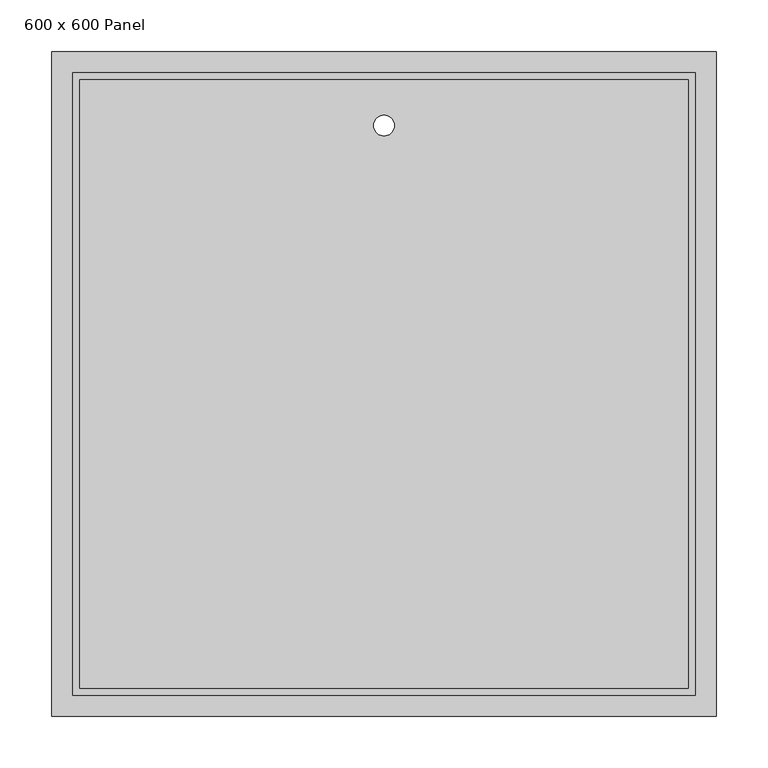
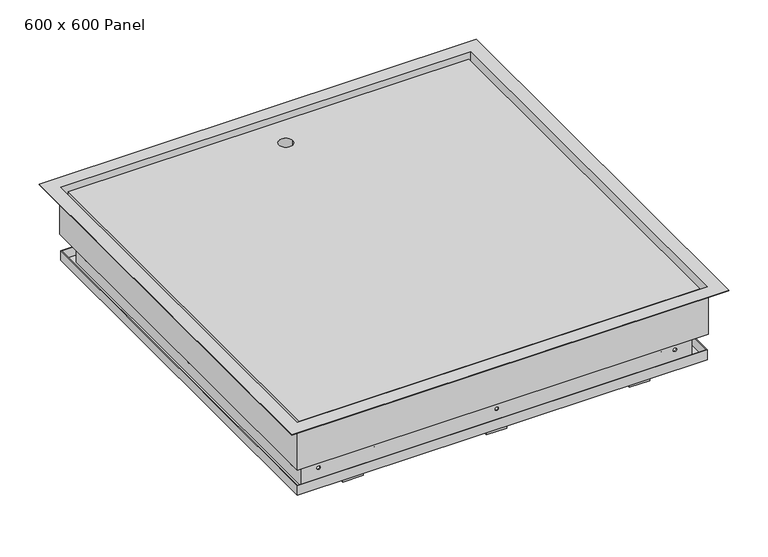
"""IFC4 building model written with IfcOpenShell, lengths in millimetres: proxy geometry, 600 x 600 Fyreshield : 600 x 600 Panel."""

from ifc_helpers import new_model, si_unit, point, frame, frame_2d, origin, place, context, project, spatial, polyline, circle_curve, trimmed, segment, composite_curve, outline, extrude, source, transform, mapped, element, save
from ifc_brep_helpers import plane_surface, cylinder_surface, revolved_surface, advanced_brep


def proxy_600_x_600_panel_ee4ed7a9(model_context):
    return source(origin(), model_context, "Body", "SolidModel", [
        extrude(outline(composite_curve([segment(trimmed(circle_curve(frame_2d((-265.0, -79.3136739)), 5.0), [point((-270.0, -79.3136739))], [point((-265.0, -74.3136739))], False, "CARTESIAN"), True, "CONTINUOUS"), segment(polyline([(-265.0, -74.3136739), (-255.6315148, -73.0), (-234.3304501, -73.0), (-234.3304501, -77.4449364)]), True, "CONTINUOUS"), segment(trimmed(circle_curve(frame_2d((-239.3304501, -77.4449364)), 5.0), [point((-234.3304501, -77.4449364))], [point((-239.3304501, -82.4449364))], False, "CARTESIAN"), True, "CONTINUOUS"), segment(polyline([(-239.3304501, -82.4449364), (-257.5, -82.4449364)]), True, "CONTINUOUS"), segment(trimmed(circle_curve(frame_2d((-257.5, -84.9449364)), 2.5), [point((-257.5, -82.4449364))], [point((-260.0, -84.9449364))], True, "CARTESIAN"), True, "CONTINUOUS"), segment(polyline([(-260.0, -84.9449364), (-260.0, -86.8136739), (-270.0, -86.8136739), (-270.0, -79.3136739)]), True, "CONTINUOUS")], self_intersect=False)), frame((200.0, 0.0, 0.0), z_axis=(1.0, 0.0, 0.0), x_axis=(0.0, 1.0, 0.0)), (0.0, 0.0, 1.0), 20.0),
        extrude(outline(composite_curve([segment(trimmed(circle_curve(frame_2d((-265.0, -79.3136739)), 5.0), [point((-270.0, -79.3136739))], [point((-265.0, -74.3136739))], False, "CARTESIAN"), True, "CONTINUOUS"), segment(polyline([(-265.0, -74.3136739), (-255.6315148, -73.0), (-234.3304501, -73.0), (-234.3304501, -77.4449364)]), True, "CONTINUOUS"), segment(trimmed(circle_curve(frame_2d((-239.3304501, -77.4449364)), 5.0), [point((-234.3304501, -77.4449364))], [point((-239.3304501, -82.4449364))], False, "CARTESIAN"), True, "CONTINUOUS"), segment(polyline([(-239.3304501, -82.4449364), (-257.5, -82.4449364)]), True, "CONTINUOUS"), segment(trimmed(circle_curve(frame_2d((-257.5, -84.9449364)), 2.5), [point((-257.5, -82.4449364))], [point((-260.0, -84.9449364))], True, "CARTESIAN"), True, "CONTINUOUS"), segment(polyline([(-260.0, -84.9449364), (-260.0, -86.8136739), (-270.0, -86.8136739), (-270.0, -79.3136739)]), True, "CONTINUOUS")], self_intersect=False)), frame((-10.0, 0.0, 0.0), z_axis=(1.0, 0.0, 0.0), x_axis=(0.0, 1.0, 0.0)), (0.0, 0.0, 1.0), 20.0),
        extrude(outline(polyline([(293.0, 293.0), (293.0, -293.0), (-293.0, -293.0), (-293.0, 293.0), (293.0, 293.0)]), holes=[composite_curve([segment(trimmed(circle_curve(frame_2d((0.0, 249.0)), 10.0), [point((-10.0, 249.0))], [point((10.0, 249.0))], True, "CARTESIAN"), True, "CONTINUOUS"), segment(trimmed(circle_curve(frame_2d((0.0, 249.0)), 10.0), [point((10.0, 249.0))], [point((-10.0, 249.0))], True, "CARTESIAN"), True, "CONTINUOUS")], self_intersect=False)]), frame((0.0, 0.0, -71.0), z_axis=(0.0, 0.0, 1.0), x_axis=(1.0, 0.0, 0.0)), (0.0, 0.0, 1.0), 67.0),
        advanced_brep(
        [(-220.0, -270.0, -79.3136739), (-220.0, -265.0, -74.3136739), (-220.0, -248.5, -72.0), (-220.0, -234.3304501, -72.0), (-220.0, -234.3304501, -77.4449364), (-220.0, -239.3304501, -82.4449364), (-220.0, -257.5, -82.4449364), (-220.0, -260.0, -84.9449364), (-220.0, -260.0, -127.128369), (-220.0, -280.0, -127.128369), (-220.0, -280.0, -86.8136739), (-220.0, -270.0, -86.8136739), (-200.0, -270.0, -79.3136739), (-200.0, -270.0, -86.8136739), (-200.0, -280.0, -86.8136739), (-200.0, -280.0, -127.128369), (-200.0, -260.0, -127.128369), (-200.0, -260.0, -84.9449364), (-200.0, -257.5, -82.4449364), (-200.0, -239.3304501, -82.4449364), (-200.0, -234.3304501, -77.4449364), (-200.0, -234.3304501, -72.0), (-200.0, -248.5, -72.0), (-200.0, -265.0, -74.3136739), (-240.020868, -280.0, -112.0), (-230.0, -280.0, -112.0), (-230.0, -285.0, -112.0), (-240.020868, -285.0, -112.0), (-242.520868, -280.0, -109.5), (-242.520868, -285.0, -109.5), (-242.520868, -280.0, -90.3136739), (-242.520868, -285.0, -90.3136739), (-240.020868, -280.0, -87.8136739), (-240.020868, -285.0, -87.8136739), (-227.5, -280.0, -112.0), (-225.0, -280.0, -114.5), (-225.0, -285.0, -114.5), (-227.5, -285.0, -112.0), (-192.5, -280.0, -112.0), (-190.0, -280.0, -112.0), (-190.0, -285.0, -112.0), (-192.5, -285.0, -112.0), (-195.0, -280.0, -114.5), (-195.0, -285.0, -114.5), (-177.479132, -280.0, -90.3136739), (-179.979132, -280.0, -87.8136739), (-179.979132, -285.0, -87.8136739), (-177.479132, -285.0, -90.3136739), (-177.479132, -280.0, -109.5), (-177.479132, -285.0, -109.5), (-179.979132, -280.0, -112.0), (-179.979132, -285.0, -112.0), (-225.0, -280.0, -87.8136739), (-225.0, -280.0, -86.8136739), (-225.0, -280.0, -127.128369), (-195.0, -280.0, -127.128369), (-195.0, -280.0, -86.8136739), (-195.0, -280.0, -87.8136739), (-225.0, -285.0, -127.128369), (-195.0, -285.0, -127.128369), (-195.0, -285.0, -87.8136739), (-195.0, -285.0, -86.8136739), (-225.0, -285.0, -86.8136739), (-225.0, -285.0, -87.8136739)],
        [
            (0, 1, circle_curve(frame((-220.0, -265.0, -79.3136739), z_axis=(-1.0, 0.0, 0.0), x_axis=(0.0, 1.0, 0.0)), 5.0)),
            (1, 2),
            (2, 3),
            (3, 4),
            (4, 5, circle_curve(frame((-220.0, -239.3304501, -77.4449364), z_axis=(-1.0, 0.0, 0.0), x_axis=(0.0, 1.0, 0.0)), 5.0)),
            (5, 6),
            (6, 7, circle_curve(frame((-220.0, -257.5, -84.9449364), z_axis=(1.0, 0.0, 0.0), x_axis=(0.0, 1.0, 0.0)), 2.5)),
            (7, 8),
            (8, 9),
            (9, 10),
            (10, 11),
            (11, 0),
            (12, 13),
            (13, 14),
            (14, 15),
            (15, 16),
            (16, 17),
            (17, 18, circle_curve(frame((-200.0, -257.5, -84.9449364), z_axis=(-1.0, 0.0, 0.0), x_axis=(0.0, 1.0, 0.0)), 2.5)),
            (18, 19),
            (19, 20, circle_curve(frame((-200.0, -239.3304501, -77.4449364), z_axis=(1.0, 0.0, 0.0), x_axis=(0.0, 1.0, 0.0)), 5.0)),
            (20, 21),
            (21, 22),
            (22, 23),
            (23, 12, circle_curve(frame((-200.0, -265.0, -79.3136739), z_axis=(1.0, 0.0, 0.0), x_axis=(0.0, 1.0, 0.0)), 5.0)),
            (11, 13),
            (12, 0),
            (7, 17),
            (16, 8),
            (6, 18),
            (5, 19),
            (4, 20),
            (3, 21),
            (2, 22),
            (1, 23),
            (24, 25),
            (25, 26),
            (26, 27),
            (27, 24),
            (28, 24, circle_curve(frame((-240.020868, -280.0, -109.5), z_axis=(0.0, -1.0, 0.0), x_axis=(-1.0, 0.0, 0.0)), 2.5)),
            (27, 29, circle_curve(frame((-240.020868, -285.0, -109.5), z_axis=(0.0, 1.0, 0.0), x_axis=(-1.0, 0.0, 0.0)), 2.5)),
            (29, 28),
            (30, 28),
            (29, 31),
            (31, 30),
            (32, 30, circle_curve(frame((-240.020868, -280.0, -90.3136739), z_axis=(0.0, -1.0, 0.0), x_axis=(-1.0, 0.0, 0.0)), 2.5)),
            (31, 33, circle_curve(frame((-240.020868, -285.0, -90.3136739), z_axis=(0.0, 1.0, 0.0), x_axis=(-1.0, 0.0, 0.0)), 2.5)),
            (33, 32),
            (34, 35, circle_curve(frame((-227.5, -280.0, -114.5), z_axis=(0.0, 1.0, 0.0), x_axis=(-1.0, 0.0, 0.0)), 2.5)),
            (35, 36),
            (36, 37, circle_curve(frame((-227.5, -285.0, -114.5), z_axis=(0.0, -1.0, 0.0), x_axis=(-1.0, 0.0, 0.0)), 2.5)),
            (37, 34),
            (25, 34),
            (37, 26),
            (38, 39),
            (39, 40),
            (40, 41),
            (41, 38),
            (42, 38, circle_curve(frame((-192.5, -280.0, -114.5), z_axis=(0.0, 1.0, 0.0), x_axis=(-1.0, 0.0, 0.0)), 2.5)),
            (41, 43, circle_curve(frame((-192.5, -285.0, -114.5), z_axis=(0.0, -1.0, 0.0), x_axis=(-1.0, 0.0, 0.0)), 2.5)),
            (43, 42),
            (44, 45, circle_curve(frame((-179.979132, -280.0, -90.3136739), z_axis=(0.0, -1.0, 0.0), x_axis=(-1.0, 0.0, 0.0)), 2.5)),
            (45, 46),
            (46, 47, circle_curve(frame((-179.979132, -285.0, -90.3136739), z_axis=(0.0, 1.0, 0.0), x_axis=(-1.0, 0.0, 0.0)), 2.5)),
            (47, 44),
            (48, 44),
            (47, 49),
            (49, 48),
            (50, 48, circle_curve(frame((-179.979132, -280.0, -109.5), z_axis=(0.0, -1.0, 0.0), x_axis=(-1.0, 0.0, 0.0)), 2.5)),
            (49, 51, circle_curve(frame((-179.979132, -285.0, -109.5), z_axis=(0.0, 1.0, 0.0), x_axis=(-1.0, 0.0, 0.0)), 2.5)),
            (51, 50),
            (39, 50),
            (51, 40),
            (32, 52),
            (52, 53),
            (53, 10),
            (9, 54),
            (54, 35),
            (42, 55),
            (55, 15),
            (14, 56),
            (56, 57),
            (57, 45),
            (36, 58),
            (58, 59),
            (59, 43),
            (46, 60),
            (60, 61),
            (61, 62),
            (62, 63),
            (63, 33),
            (63, 52),
            (57, 60),
            (53, 62),
            (61, 56),
            (55, 59),
            (58, 54),
        ],
        [
            plane_surface(frame((-220.0, -270.0, -86.8136739), z_axis=(-1.0, 0.0, 0.0), x_axis=(0.0, 0.0, 1.0))),
            plane_surface(frame((-200.0, -270.0, -86.8136739), z_axis=(1.0, 0.0, 0.0), x_axis=(0.0, 0.0, -1.0))),
            plane_surface(frame((-200.0, -270.0, -79.3136739), z_axis=(0.0, -1.0, 0.0), x_axis=(-1.0, 0.0, 0.0))),
            plane_surface(frame((-200.0, -260.0, -86.8136739), z_axis=(0.0, 1.0, 0.0), x_axis=(-1.0, 0.0, 0.0))),
            revolved_surface(polyline([(-220.0, -255.0, -84.9449364), (-200.0, -255.0, -84.9449364)]), (-220.0, -257.5, -84.9449364), (-1.0, 0.0, 0.0)),
            plane_surface(frame((-200.0, -257.5, -82.4449364), z_axis=(0.0, 0.0, -1.0), x_axis=(-1.0, 0.0, 0.0))),
            cylinder_surface(frame((-220.0, -239.3304501, -77.4449364), z_axis=(1.0, 0.0, 0.0), x_axis=(0.0, 1.0, 0.0)), 5.0),
            plane_surface(frame((-200.0, -234.3304501, -77.4449364), z_axis=(0.0, 1.0, 0.0), x_axis=(-1.0, 0.0, 0.0))),
            plane_surface(frame((-200.0, -234.3304501, -72.0), z_axis=(0.0, 0.0, 1.0), x_axis=(-1.0, 0.0, 0.0))),
            plane_surface(frame((-200.0, -248.5, -72.0), z_axis=(0.0, -0.1388641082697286, 0.9903114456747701), x_axis=(-1.0, 0.0, 0.0))),
            cylinder_surface(frame((-220.0, -265.0, -79.3136739), z_axis=(1.0, 0.0, 0.0), x_axis=(0.0, 1.0, 0.0)), 5.0),
            plane_surface(frame((-230.0, -280.0, -112.0), z_axis=(0.0, 0.0, -1.0), x_axis=(0.0, -1.0, 0.0))),
            cylinder_surface(frame((-240.020868, -285.0, -109.5), z_axis=(0.0, 1.0, 0.0), x_axis=(-1.0, 0.0, 0.0)), 2.5),
            plane_surface(frame((-242.520868, -280.0, -109.5), z_axis=(-1.0, 0.0, 0.0), x_axis=(0.0, -1.0, 0.0))),
            cylinder_surface(frame((-240.020868, -285.0, -90.3136739), z_axis=(0.0, 1.0, 0.0), x_axis=(-1.0, 0.0, 0.0)), 2.5),
            revolved_surface(polyline([(-230.0, -285.0, -114.5), (-230.0, -280.0, -114.5)]), (-227.5, -285.0, -114.5), (0.0, -1.0, 0.0)),
            plane_surface(frame((-227.5, -280.0, -112.0), z_axis=(0.0, 0.0, -1.0), x_axis=(0.0, -1.0, 0.0))),
            plane_surface(frame((-190.0, -280.0, -112.0), z_axis=(0.0, 0.0, -1.0), x_axis=(0.0, -1.0, 0.0))),
            revolved_surface(polyline([(-195.0, -285.0, -114.5), (-195.0, -280.0, -114.5)]), (-192.5, -285.0, -114.5), (0.0, -1.0, 0.0)),
            cylinder_surface(frame((-179.979132, -285.0, -90.3136739), z_axis=(0.0, 1.0, 0.0), x_axis=(-1.0, 0.0, 0.0)), 2.5),
            plane_surface(frame((-177.479132, -280.0, -90.3136739), z_axis=(1.0, 0.0, 0.0), x_axis=(0.0, -1.0, 0.0))),
            cylinder_surface(frame((-179.979132, -285.0, -109.5), z_axis=(0.0, 1.0, 0.0), x_axis=(-1.0, 0.0, 0.0)), 2.5),
            plane_surface(frame((-179.979132, -280.0, -112.0), z_axis=(0.0, 0.0, -1.0), x_axis=(0.0, -1.0, 0.0))),
            plane_surface(frame((190.0, -280.0, -112.0), z_axis=(0.0, 1.0, 0.0), x_axis=(-1.0, 0.0, 0.0))),
            plane_surface(frame((190.0, -285.0, -112.0), z_axis=(0.0, -1.0, 0.0), x_axis=(1.0, 0.0, 0.0))),
            plane_surface(frame((-240.020868, -280.0, -87.8136739), z_axis=(0.0, 0.0, 1.0), x_axis=(0.0, -1.0, 0.0))),
            plane_surface(frame((-195.0, -280.0, -87.8136739), z_axis=(0.0, 0.0, 1.0), x_axis=(0.0, -1.0, 0.0))),
            plane_surface(frame((-225.0, -285.0, -86.8136739), z_axis=(0.0, 0.0, 1.0), x_axis=(0.0, -1.0, 0.0))),
            plane_surface(frame((-225.0, -285.0, -127.128369), z_axis=(0.0, 0.0, -1.0), x_axis=(0.0, 1.0, 0.0))),
            plane_surface(frame((-225.0, -280.0, -86.8136739), z_axis=(-1.0, 0.0, 0.0), x_axis=(0.0, 0.0, -1.0))),
            plane_surface(frame((-195.0, -285.0, -86.8136739), z_axis=(1.0, 0.0, 0.0), x_axis=(0.0, 0.0, -1.0))),
        ],
        [
            (0, [[1, 2, 3, 4, 5, 6, 7, 8, 9, 10, 11, 12]]),
            (1, [[13, 14, 15, 16, 17, 18, 19, 20, 21, 22, 23, 24]]),
            (2, [[-12, 25, -13, 26]]),
            (3, [[-8, 27, -17, 28]]),
            (4, [[-7, 29, -18, -27]]),
            (5, [[-6, 30, -19, -29]]),
            (6, [[-5, 31, -20, -30]]),
            (7, [[-4, 32, -21, -31]]),
            (8, [[-3, 33, -22, -32]]),
            (9, [[-2, 34, -23, -33]]),
            (10, [[-1, -26, -24, -34]]),
            (11, [[35, 36, 37, 38]]),
            (12, [[39, -38, 40, 41]]),
            (13, [[42, -41, 43, 44]]),
            (14, [[45, -44, 46, 47]]),
            (15, [[48, 49, 50, 51]]),
            (16, [[52, -51, 53, -36]]),
            (17, [[54, 55, 56, 57]]),
            (18, [[58, -57, 59, 60]]),
            (19, [[61, 62, 63, 64]]),
            (20, [[65, -64, 66, 67]]),
            (21, [[68, -67, 69, 70]]),
            (22, [[71, -70, 72, -55]]),
            (23, [[-35, -39, -42, -45, 73, 74, 75, -10, 76, 77, -48, -52]]),
            (23, [[-54, -58, 78, 79, -15, 80, 81, 82, -61, -65, -68, -71]]),
            (24, [[-53, -50, 83, 84, 85, -59, -56, -72, -69, -66, -63, 86, 87, 88, 89, 90, -46, -43, -40, -37]]),
            (25, [[-73, -47, -90, 91]]),
            (26, [[-82, 92, -86, -62]]),
            (27, [[93, -88, 94, -80, -14, -25, -11, -75]]),
            (28, [[-76, -9, -28, -16, -79, 95, -84, 96]]),
            (29, [[-93, -74, -91, -89]]),
            (29, [[-96, -83, -49, -77]]),
            (30, [[-94, -87, -92, -81]]),
            (30, [[-95, -78, -60, -85]]),
        ],
    ),
        advanced_brep(
        [(179.979132, -280.0, -112.0), (190.0, -280.0, -112.0), (190.0, -285.0, -112.0), (179.979132, -285.0, -112.0), (177.479132, -280.0, -109.5), (177.479132, -285.0, -109.5), (177.479132, -280.0, -90.3136739), (177.479132, -285.0, -90.3136739), (179.979132, -280.0, -87.8136739), (179.979132, -285.0, -87.8136739), (192.5, -280.0, -112.0), (195.0, -280.0, -114.5), (195.0, -285.0, -114.5), (192.5, -285.0, -112.0), (227.5, -280.0, -112.0), (230.0, -280.0, -112.0), (230.0, -285.0, -112.0), (227.5, -285.0, -112.0), (225.0, -280.0, -114.5), (225.0, -285.0, -114.5), (242.520868, -280.0, -90.3136739), (240.020868, -280.0, -87.8136739), (240.020868, -285.0, -87.8136739), (242.520868, -285.0, -90.3136739), (242.520868, -280.0, -109.5), (242.520868, -285.0, -109.5), (240.020868, -280.0, -112.0), (240.020868, -285.0, -112.0), (195.0, -280.0, -87.8136739), (195.0, -280.0, -86.8136739), (200.0, -280.0, -86.8136739), (200.0, -280.0, -127.128369), (195.0, -280.0, -127.128369), (225.0, -280.0, -127.128369), (220.0, -280.0, -127.128369), (220.0, -280.0, -86.8136739), (225.0, -280.0, -86.8136739), (225.0, -280.0, -87.8136739), (195.0, -285.0, -127.128369), (225.0, -285.0, -127.128369), (225.0, -285.0, -87.8136739), (225.0, -285.0, -86.8136739), (195.0, -285.0, -86.8136739), (195.0, -285.0, -87.8136739), (220.0, -260.0, -86.8136739), (200.0, -260.0, -86.8136739), (200.0, -260.0, -127.128369), (220.0, -260.0, -127.128369)],
        [
            (0, 1),
            (1, 2),
            (2, 3),
            (3, 0),
            (4, 0, circle_curve(frame((179.979132, -280.0, -109.5), z_axis=(0.0, -1.0, 0.0), x_axis=(-1.0, 0.0, 0.0)), 2.5)),
            (3, 5, circle_curve(frame((179.979132, -285.0, -109.5), z_axis=(0.0, 1.0, 0.0), x_axis=(-1.0, 0.0, 0.0)), 2.5)),
            (5, 4),
            (6, 4),
            (5, 7),
            (7, 6),
            (8, 6, circle_curve(frame((179.979132, -280.0, -90.3136739), z_axis=(0.0, -1.0, 0.0), x_axis=(-1.0, 0.0, 0.0)), 2.5)),
            (7, 9, circle_curve(frame((179.979132, -285.0, -90.3136739), z_axis=(0.0, 1.0, 0.0), x_axis=(-1.0, 0.0, 0.0)), 2.5)),
            (9, 8),
            (10, 11, circle_curve(frame((192.5, -280.0, -114.5), z_axis=(0.0, 1.0, 0.0), x_axis=(-1.0, 0.0, 0.0)), 2.5)),
            (11, 12),
            (12, 13, circle_curve(frame((192.5, -285.0, -114.5), z_axis=(0.0, -1.0, 0.0), x_axis=(-1.0, 0.0, 0.0)), 2.5)),
            (13, 10),
            (1, 10),
            (13, 2),
            (14, 15),
            (15, 16),
            (16, 17),
            (17, 14),
            (18, 14, circle_curve(frame((227.5, -280.0, -114.5), z_axis=(0.0, 1.0, 0.0), x_axis=(-1.0, 0.0, 0.0)), 2.5)),
            (17, 19, circle_curve(frame((227.5, -285.0, -114.5), z_axis=(0.0, -1.0, 0.0), x_axis=(-1.0, 0.0, 0.0)), 2.5)),
            (19, 18),
            (20, 21, circle_curve(frame((240.020868, -280.0, -90.3136739), z_axis=(0.0, -1.0, 0.0), x_axis=(-1.0, 0.0, 0.0)), 2.5)),
            (21, 22),
            (22, 23, circle_curve(frame((240.020868, -285.0, -90.3136739), z_axis=(0.0, 1.0, 0.0), x_axis=(-1.0, 0.0, 0.0)), 2.5)),
            (23, 20),
            (24, 20),
            (23, 25),
            (25, 24),
            (26, 24, circle_curve(frame((240.020868, -280.0, -109.5), z_axis=(0.0, -1.0, 0.0), x_axis=(-1.0, 0.0, 0.0)), 2.5)),
            (25, 27, circle_curve(frame((240.020868, -285.0, -109.5), z_axis=(0.0, 1.0, 0.0), x_axis=(-1.0, 0.0, 0.0)), 2.5)),
            (27, 26),
            (15, 26),
            (27, 16),
            (8, 28),
            (28, 29),
            (29, 30),
            (30, 31),
            (31, 32),
            (32, 11),
            (18, 33),
            (33, 34),
            (34, 35),
            (35, 36),
            (36, 37),
            (37, 21),
            (12, 38),
            (38, 39),
            (39, 19),
            (22, 40),
            (40, 41),
            (41, 42),
            (42, 43),
            (43, 9),
            (43, 28),
            (37, 40),
            (29, 42),
            (41, 36),
            (35, 44),
            (44, 45),
            (45, 30),
            (31, 46),
            (46, 47),
            (47, 34),
            (33, 39),
            (38, 32),
            (47, 44),
            (46, 45),
        ],
        [
            plane_surface(frame((190.0, -280.0, -112.0), z_axis=(0.0, 0.0, -1.0), x_axis=(0.0, -1.0, 0.0))),
            cylinder_surface(frame((179.979132, -285.0, -109.5), z_axis=(0.0, 1.0, 0.0), x_axis=(-1.0, 0.0, 0.0)), 2.5),
            plane_surface(frame((177.479132, -280.0, -109.5), z_axis=(-1.0, 0.0, 0.0), x_axis=(0.0, -1.0, 0.0))),
            cylinder_surface(frame((179.979132, -285.0, -90.3136739), z_axis=(0.0, 1.0, 0.0), x_axis=(-1.0, 0.0, 0.0)), 2.5),
            revolved_surface(polyline([(190.0, -285.0, -114.5), (190.0, -280.0, -114.5)]), (192.5, -285.0, -114.5), (0.0, -1.0, 0.0)),
            plane_surface(frame((192.5, -280.0, -112.0), z_axis=(0.0, 0.0, -1.0), x_axis=(0.0, -1.0, 0.0))),
            plane_surface(frame((230.0, -280.0, -112.0), z_axis=(0.0, 0.0, -1.0), x_axis=(0.0, -1.0, 0.0))),
            revolved_surface(polyline([(225.0, -285.0, -114.5), (225.0, -280.0, -114.5)]), (227.5, -285.0, -114.5), (0.0, -1.0, 0.0)),
            cylinder_surface(frame((240.020868, -285.0, -90.3136739), z_axis=(0.0, 1.0, 0.0), x_axis=(-1.0, 0.0, 0.0)), 2.5),
            plane_surface(frame((242.520868, -280.0, -90.3136739), z_axis=(1.0, 0.0, 0.0), x_axis=(0.0, -1.0, 0.0))),
            cylinder_surface(frame((240.020868, -285.0, -109.5), z_axis=(0.0, 1.0, 0.0), x_axis=(-1.0, 0.0, 0.0)), 2.5),
            plane_surface(frame((240.020868, -280.0, -112.0), z_axis=(0.0, 0.0, -1.0), x_axis=(0.0, -1.0, 0.0))),
            plane_surface(frame((190.0, -280.0, -112.0), z_axis=(0.0, 1.0, 0.0), x_axis=(-1.0, 0.0, 0.0))),
            plane_surface(frame((190.0, -285.0, -112.0), z_axis=(0.0, -1.0, 0.0), x_axis=(1.0, 0.0, 0.0))),
            plane_surface(frame((179.979132, -280.0, -87.8136739), z_axis=(0.0, 0.0, 1.0), x_axis=(0.0, -1.0, 0.0))),
            plane_surface(frame((225.0, -280.0, -87.8136739), z_axis=(0.0, 0.0, 1.0), x_axis=(0.0, -1.0, 0.0))),
            plane_surface(frame((-225.0, -285.0, -86.8136739), z_axis=(0.0, 0.0, 1.0), x_axis=(0.0, -1.0, 0.0))),
            plane_surface(frame((-225.0, -285.0, -127.128369), z_axis=(0.0, 0.0, -1.0), x_axis=(0.0, 1.0, 0.0))),
            plane_surface(frame((195.0, -280.0, -86.8136739), z_axis=(-1.0, 0.0, 0.0), x_axis=(0.0, 0.0, -1.0))),
            plane_surface(frame((225.0, -285.0, -86.8136739), z_axis=(1.0, 0.0, 0.0), x_axis=(0.0, 0.0, -1.0))),
            plane_surface(frame((220.0, -280.0, -86.8136739), z_axis=(1.0, 0.0, 0.0), x_axis=(0.0, 0.0, -1.0))),
            plane_surface(frame((220.0, -260.0, -86.8136739), z_axis=(0.0, 1.0, 0.0), x_axis=(0.0, 0.0, -1.0))),
            plane_surface(frame((200.0, -260.0, -86.8136739), z_axis=(-1.0, 0.0, 0.0), x_axis=(0.0, 0.0, -1.0))),
        ],
        [
            (0, [[1, 2, 3, 4]]),
            (1, [[5, -4, 6, 7]]),
            (2, [[8, -7, 9, 10]]),
            (3, [[11, -10, 12, 13]]),
            (4, [[14, 15, 16, 17]]),
            (5, [[18, -17, 19, -2]]),
            (6, [[20, 21, 22, 23]]),
            (7, [[24, -23, 25, 26]]),
            (8, [[27, 28, 29, 30]]),
            (9, [[31, -30, 32, 33]]),
            (10, [[34, -33, 35, 36]]),
            (11, [[37, -36, 38, -21]]),
            (12, [[-1, -5, -8, -11, 39, 40, 41, 42, 43, 44, -14, -18]]),
            (12, [[-20, -24, 45, 46, 47, 48, 49, 50, -27, -31, -34, -37]]),
            (13, [[-19, -16, 51, 52, 53, -25, -22, -38, -35, -32, -29, 54, 55, 56, 57, 58, -12, -9, -6, -3]]),
            (14, [[-39, -13, -58, 59]]),
            (15, [[-50, 60, -54, -28]]),
            (16, [[61, -56, 62, -48, 63, 64, 65, -41]]),
            (17, [[-43, 66, 67, 68, -46, 69, -52, 70]]),
            (18, [[-61, -40, -59, -57]]),
            (18, [[-70, -51, -15, -44]]),
            (19, [[-62, -55, -60, -49]]),
            (19, [[-69, -45, -26, -53]]),
            (20, [[-63, -47, -68, 71]]),
            (21, [[-64, -71, -67, 72]]),
            (22, [[-65, -72, -66, -42]]),
        ],
    ),
        advanced_brep(
        [(-30.020868, -280.0, -112.0), (-20.0, -280.0, -112.0), (-20.0, -285.0, -112.0), (-30.020868, -285.0, -112.0), (-32.520868, -280.0, -109.5), (-32.520868, -285.0, -109.5), (-32.520868, -280.0, -90.3136739), (-32.520868, -285.0, -90.3136739), (-30.020868, -280.0, -87.8136739), (-30.020868, -285.0, -87.8136739), (-17.5, -280.0, -112.0), (-15.0, -280.0, -114.5), (-15.0, -285.0, -114.5), (-17.5, -285.0, -112.0), (17.5, -280.0, -112.0), (20.0, -280.0, -112.0), (20.0, -285.0, -112.0), (17.5, -285.0, -112.0), (15.0, -280.0, -114.5), (15.0, -285.0, -114.5), (32.520868, -280.0, -90.3136739), (30.020868, -280.0, -87.8136739), (30.020868, -285.0, -87.8136739), (32.520868, -285.0, -90.3136739), (32.520868, -280.0, -109.5), (32.520868, -285.0, -109.5), (30.020868, -280.0, -112.0), (30.020868, -285.0, -112.0), (-15.0, -280.0, -87.8136739), (-15.0, -280.0, -86.8136739), (-10.0, -280.0, -86.8136739), (-10.0, -280.0, -127.128369), (-15.0, -280.0, -127.128369), (15.0, -280.0, -127.128369), (10.0, -280.0, -127.128369), (10.0, -280.0, -86.8136739), (15.0, -280.0, -86.8136739), (15.0, -280.0, -87.8136739), (15.0, -285.0, -87.8136739), (15.0, -285.0, -86.8136739), (-15.0, -285.0, -86.8136739), (-15.0, -285.0, -87.8136739), (-15.0, -285.0, -127.128369), (15.0, -285.0, -127.128369), (10.0, -260.0, -86.8136739), (-10.0, -260.0, -86.8136739), (-10.0, -260.0, -127.128369), (10.0, -260.0, -127.128369)],
        [
            (0, 1),
            (1, 2),
            (2, 3),
            (3, 0),
            (4, 0, circle_curve(frame((-30.020868, -280.0, -109.5), z_axis=(0.0, -1.0, 0.0), x_axis=(-1.0, 0.0, 0.0)), 2.5)),
            (3, 5, circle_curve(frame((-30.020868, -285.0, -109.5), z_axis=(0.0, 1.0, 0.0), x_axis=(-1.0, 0.0, 0.0)), 2.5)),
            (5, 4),
            (6, 4),
            (5, 7),
            (7, 6),
            (8, 6, circle_curve(frame((-30.020868, -280.0, -90.3136739), z_axis=(0.0, -1.0, 0.0), x_axis=(-1.0, 0.0, 0.0)), 2.5)),
            (7, 9, circle_curve(frame((-30.020868, -285.0, -90.3136739), z_axis=(0.0, 1.0, 0.0), x_axis=(-1.0, 0.0, 0.0)), 2.5)),
            (9, 8),
            (10, 11, circle_curve(frame((-17.5, -280.0, -114.5), z_axis=(0.0, 1.0, 0.0), x_axis=(-1.0, 0.0, 0.0)), 2.5)),
            (11, 12),
            (12, 13, circle_curve(frame((-17.5, -285.0, -114.5), z_axis=(0.0, -1.0, 0.0), x_axis=(-1.0, 0.0, 0.0)), 2.5)),
            (13, 10),
            (1, 10),
            (13, 2),
            (14, 15),
            (15, 16),
            (16, 17),
            (17, 14),
            (18, 14, circle_curve(frame((17.5, -280.0, -114.5), z_axis=(0.0, 1.0, 0.0), x_axis=(-1.0, 0.0, 0.0)), 2.5)),
            (17, 19, circle_curve(frame((17.5, -285.0, -114.5), z_axis=(0.0, -1.0, 0.0), x_axis=(-1.0, 0.0, 0.0)), 2.5)),
            (19, 18),
            (20, 21, circle_curve(frame((30.020868, -280.0, -90.3136739), z_axis=(0.0, -1.0, 0.0), x_axis=(-1.0, 0.0, 0.0)), 2.5)),
            (21, 22),
            (22, 23, circle_curve(frame((30.020868, -285.0, -90.3136739), z_axis=(0.0, 1.0, 0.0), x_axis=(-1.0, 0.0, 0.0)), 2.5)),
            (23, 20),
            (24, 20),
            (23, 25),
            (25, 24),
            (26, 24, circle_curve(frame((30.020868, -280.0, -109.5), z_axis=(0.0, -1.0, 0.0), x_axis=(-1.0, 0.0, 0.0)), 2.5)),
            (25, 27, circle_curve(frame((30.020868, -285.0, -109.5), z_axis=(0.0, 1.0, 0.0), x_axis=(-1.0, 0.0, 0.0)), 2.5)),
            (27, 26),
            (15, 26),
            (27, 16),
            (8, 28),
            (28, 29),
            (29, 30),
            (30, 31),
            (31, 32),
            (32, 11),
            (18, 33),
            (33, 34),
            (34, 35),
            (35, 36),
            (36, 37),
            (37, 21),
            (22, 38),
            (38, 39),
            (39, 40),
            (40, 41),
            (41, 9),
            (12, 42),
            (42, 43),
            (43, 19),
            (41, 28),
            (37, 38),
            (29, 40),
            (39, 36),
            (35, 44),
            (44, 45),
            (45, 30),
            (31, 46),
            (46, 47),
            (47, 34),
            (33, 43),
            (42, 32),
            (47, 44),
            (46, 45),
        ],
        [
            plane_surface(frame((-20.0, -280.0, -112.0), z_axis=(0.0, 0.0, -1.0), x_axis=(0.0, -1.0, 0.0))),
            cylinder_surface(frame((-30.020868, -285.0, -109.5), z_axis=(0.0, 1.0, 0.0), x_axis=(-1.0, 0.0, 0.0)), 2.5),
            plane_surface(frame((-32.520868, -280.0, -109.5), z_axis=(-1.0, 0.0, 0.0), x_axis=(0.0, -1.0, 0.0))),
            cylinder_surface(frame((-30.020868, -285.0, -90.3136739), z_axis=(0.0, 1.0, 0.0), x_axis=(-1.0, 0.0, 0.0)), 2.5),
            revolved_surface(polyline([(-20.0, -285.0, -114.5), (-20.0, -280.0, -114.5)]), (-17.5, -285.0, -114.5), (0.0, -1.0, 0.0)),
            plane_surface(frame((-17.5, -280.0, -112.0), z_axis=(0.0, 0.0, -1.0), x_axis=(0.0, -1.0, 0.0))),
            plane_surface(frame((20.0, -280.0, -112.0), z_axis=(0.0, 0.0, -1.0), x_axis=(0.0, -1.0, 0.0))),
            revolved_surface(polyline([(15.0, -285.0, -114.5), (15.0, -280.0, -114.5)]), (17.5, -285.0, -114.5), (0.0, -1.0, 0.0)),
            cylinder_surface(frame((30.020868, -285.0, -90.3136739), z_axis=(0.0, 1.0, 0.0), x_axis=(-1.0, 0.0, 0.0)), 2.5),
            plane_surface(frame((32.520868, -280.0, -90.3136739), z_axis=(1.0, 0.0, 0.0), x_axis=(0.0, -1.0, 0.0))),
            cylinder_surface(frame((30.020868, -285.0, -109.5), z_axis=(0.0, 1.0, 0.0), x_axis=(-1.0, 0.0, 0.0)), 2.5),
            plane_surface(frame((30.020868, -280.0, -112.0), z_axis=(0.0, 0.0, -1.0), x_axis=(0.0, -1.0, 0.0))),
            plane_surface(frame((190.0, -280.0, -112.0), z_axis=(0.0, 1.0, 0.0), x_axis=(-1.0, 0.0, 0.0))),
            plane_surface(frame((190.0, -285.0, -112.0), z_axis=(0.0, -1.0, 0.0), x_axis=(1.0, 0.0, 0.0))),
            plane_surface(frame((-30.020868, -280.0, -87.8136739), z_axis=(0.0, 0.0, 1.0), x_axis=(0.0, -1.0, 0.0))),
            plane_surface(frame((15.0, -280.0, -87.8136739), z_axis=(0.0, 0.0, 1.0), x_axis=(0.0, -1.0, 0.0))),
            plane_surface(frame((-225.0, -285.0, -86.8136739), z_axis=(0.0, 0.0, 1.0), x_axis=(0.0, -1.0, 0.0))),
            plane_surface(frame((-225.0, -285.0, -127.128369), z_axis=(0.0, 0.0, -1.0), x_axis=(0.0, 1.0, 0.0))),
            plane_surface(frame((-15.0, -280.0, -86.8136739), z_axis=(-1.0, 0.0, 0.0), x_axis=(0.0, 0.0, -1.0))),
            plane_surface(frame((15.0, -285.0, -86.8136739), z_axis=(1.0, 0.0, 0.0), x_axis=(0.0, 0.0, -1.0))),
            plane_surface(frame((10.0, -280.0, -86.8136739), z_axis=(1.0, 0.0, 0.0), x_axis=(0.0, 0.0, -1.0))),
            plane_surface(frame((10.0, -260.0, -86.8136739), z_axis=(0.0, 1.0, 0.0), x_axis=(0.0, 0.0, -1.0))),
            plane_surface(frame((-10.0, -260.0, -86.8136739), z_axis=(-1.0, 0.0, 0.0), x_axis=(0.0, 0.0, -1.0))),
        ],
        [
            (0, [[1, 2, 3, 4]]),
            (1, [[5, -4, 6, 7]]),
            (2, [[8, -7, 9, 10]]),
            (3, [[11, -10, 12, 13]]),
            (4, [[14, 15, 16, 17]]),
            (5, [[18, -17, 19, -2]]),
            (6, [[20, 21, 22, 23]]),
            (7, [[24, -23, 25, 26]]),
            (8, [[27, 28, 29, 30]]),
            (9, [[31, -30, 32, 33]]),
            (10, [[34, -33, 35, 36]]),
            (11, [[37, -36, 38, -21]]),
            (12, [[-1, -5, -8, -11, 39, 40, 41, 42, 43, 44, -14, -18]]),
            (12, [[-20, -24, 45, 46, 47, 48, 49, 50, -27, -31, -34, -37]]),
            (13, [[-38, -35, -32, -29, 51, 52, 53, 54, 55, -12, -9, -6, -3, -19, -16, 56, 57, 58, -25, -22]]),
            (14, [[-39, -13, -55, 59]]),
            (15, [[-50, 60, -51, -28]]),
            (16, [[61, -53, 62, -48, 63, 64, 65, -41]]),
            (17, [[-43, 66, 67, 68, -46, 69, -57, 70]]),
            (18, [[-61, -40, -59, -54]]),
            (18, [[-70, -56, -15, -44]]),
            (19, [[-62, -52, -60, -49]]),
            (19, [[-69, -45, -26, -58]]),
            (20, [[-63, -47, -68, 71]]),
            (21, [[-64, -71, -67, 72]]),
            (22, [[-65, -72, -66, -42]]),
        ],
    ),
        extrude(outline(composite_curve([segment(polyline([(10.0, 279.0), (-10.0, 279.0), (-10.0, 296.0)]), True, "CONTINUOUS"), segment(trimmed(circle_curve(frame_2d((-5.0, 296.0)), 5.0), [point((-10.0, 296.0))], [point((-5.0, 301.0))], False, "CARTESIAN"), True, "CONTINUOUS"), segment(polyline([(-5.0, 301.0), (5.0, 301.0)]), True, "CONTINUOUS"), segment(trimmed(circle_curve(frame_2d((5.0, 296.0)), 5.0), [point((5.0, 301.0))], [point((10.0, 296.0))], False, "CARTESIAN"), True, "CONTINUOUS"), segment(polyline([(10.0, 296.0), (10.0, 279.0)]), True, "CONTINUOUS")], self_intersect=False)), frame((0.0, 0.0, -79.5), z_axis=(0.0, 0.0, 1.0), x_axis=(1.0, 0.0, 0.0)), (0.0, 0.0, 1.0), 5.0),
        advanced_brep(
        [(320.0, 320.0, 0.0), (320.0, 320.0, 1.0), (320.0, -320.0, 1.0), (320.0, -320.0, 0.0), (301.0, 301.0, -72.0), (301.0, 301.0, 0.0), (301.0, -301.0, 0.0), (301.0, -301.0, -72.0), (286.0, 286.0, -111.0), (286.0, 286.0, -72.0), (286.0, -286.0, -72.0), (286.0, -286.0, -111.0), (286.0, -263.5, -91.5), (286.0, -258.5, -91.5), (286.0, -2.5, -91.5), (286.0, 2.5, -91.5), (286.0, 258.5, -91.5), (286.0, 263.5, -91.5), (299.0, 299.0, -97.0), (299.0, 299.0, -111.0), (299.0, -299.0, -111.0), (299.0, -299.0, -97.0), (300.0, 300.0, -112.0), (300.0, 300.0, -97.0), (300.0, -300.0, -97.0), (300.0, -300.0, -112.0), (285.0, 285.0, -71.0), (285.0, 285.0, -112.0), (285.0, -285.0, -112.0), (285.0, -285.0, -71.0), (285.0, -258.5, -91.5), (285.0, -263.5, -91.5), (285.0, 2.5, -91.5), (285.0, -2.5, -91.5), (285.0, 263.5, -91.5), (285.0, 258.5, -91.5), (300.0, 300.0, 1.0), (300.0, 300.0, -71.0), (300.0, -300.0, -71.0), (300.0, -300.0, 1.0), (-320.0, -320.0, 1.0), (-320.0, -320.0, 0.0), (-301.0, -301.0, 0.0), (-301.0, -301.0, -72.0), (-286.0, -286.0, -72.0), (-286.0, -286.0, -111.0), (-263.5, -286.0, -91.5), (-258.5, -286.0, -91.5), (-2.5, -286.0, -91.5), (2.5, -286.0, -91.5), (258.5, -286.0, -91.5), (263.5, -286.0, -91.5), (-299.0, -299.0, -111.0), (-299.0, -299.0, -97.0), (-300.0, -300.0, -97.0), (-300.0, -300.0, -112.0), (-285.0, -285.0, -112.0), (-285.0, -285.0, -71.0), (-258.5, -285.0, -91.5), (-263.5, -285.0, -91.5), (2.5, -285.0, -91.5), (-2.5, -285.0, -91.5), (263.5, -285.0, -91.5), (258.5, -285.0, -91.5), (-300.0, -300.0, -71.0), (-300.0, -300.0, 1.0), (-320.0, 320.0, 1.0), (-320.0, 320.0, 0.0), (-301.0, 301.0, 0.0), (-301.0, 301.0, -72.0), (-286.0, 286.0, -72.0), (-286.0, 286.0, -111.0), (-286.0, 263.5, -91.5), (-286.0, 258.5, -91.5), (-286.0, -258.5, -91.5), (-286.0, -263.5, -91.5), (-286.0, 2.5, -91.5), (-286.0, -2.5, -91.5), (-299.0, 299.0, -111.0), (-299.0, 299.0, -97.0), (-300.0, 300.0, -97.0), (-300.0, 300.0, -112.0), (-285.0, 285.0, -112.0), (-285.0, 285.0, -71.0), (-285.0, 258.5, -91.5), (-285.0, 263.5, -91.5), (-285.0, -263.5, -91.5), (-285.0, -258.5, -91.5), (-285.0, -2.5, -91.5), (-285.0, 2.5, -91.5), (-300.0, 300.0, -71.0), (-300.0, 300.0, 1.0), (30.9960275, 286.0, -72.0), (30.9960275, 285.0, -72.0), (-30.9960275, 285.0, -72.0), (-30.9960275, 286.0, -72.0), (-30.9960275, 286.0, -82.0), (30.9960275, 286.0, -82.0), (263.5, 286.0, -91.5), (258.5, 286.0, -91.5), (-258.5, 286.0, -91.5), (-263.5, 286.0, -91.5), (2.5, 286.0, -91.5), (-2.5, 286.0, -91.5), (258.5, 285.0, -91.5), (263.5, 285.0, -91.5), (-263.5, 285.0, -91.5), (-258.5, 285.0, -91.5), (-2.5, 285.0, -91.5), (2.5, 285.0, -91.5), (30.9960275, 285.0, -82.0), (-30.9960275, 285.0, -82.0)],
        [
            (0, 1),
            (1, 2),
            (2, 3),
            (3, 0),
            (4, 5),
            (5, 6),
            (6, 7),
            (7, 4),
            (8, 9),
            (9, 10),
            (10, 11),
            (11, 8),
            (12, 13, circle_curve(frame((286.0, -261.0, -91.5), z_axis=(-1.0, 0.0, 0.0), x_axis=(0.0, -1.0, 0.0)), 2.5)),
            (13, 12, circle_curve(frame((286.0, -261.0, -91.5), z_axis=(-1.0, 0.0, 0.0), x_axis=(0.0, -1.0, 0.0)), 2.5)),
            (14, 15, circle_curve(frame((286.0, 0.0, -91.5), z_axis=(-1.0, 0.0, 0.0), x_axis=(0.0, -1.0, 0.0)), 2.5)),
            (15, 14, circle_curve(frame((286.0, 0.0, -91.5), z_axis=(-1.0, 0.0, 0.0), x_axis=(0.0, -1.0, 0.0)), 2.5)),
            (16, 17, circle_curve(frame((286.0, 261.0, -91.5), z_axis=(-1.0, 0.0, 0.0), x_axis=(0.0, -1.0, 0.0)), 2.5)),
            (17, 16, circle_curve(frame((286.0, 261.0, -91.5), z_axis=(-1.0, 0.0, 0.0), x_axis=(0.0, -1.0, 0.0)), 2.5)),
            (18, 19),
            (19, 20),
            (20, 21),
            (21, 18),
            (22, 23),
            (23, 24),
            (24, 25),
            (25, 22),
            (26, 27),
            (27, 28),
            (28, 29),
            (29, 26),
            (30, 31, circle_curve(frame((285.0, -261.0, -91.5), z_axis=(1.0, 0.0, 0.0), x_axis=(0.0, -1.0, 0.0)), 2.5)),
            (31, 30, circle_curve(frame((285.0, -261.0, -91.5), z_axis=(1.0, 0.0, 0.0), x_axis=(0.0, -1.0, 0.0)), 2.5)),
            (32, 33, circle_curve(frame((285.0, 0.0, -91.5), z_axis=(1.0, 0.0, 0.0), x_axis=(0.0, -1.0, 0.0)), 2.5)),
            (33, 32, circle_curve(frame((285.0, 0.0, -91.5), z_axis=(1.0, 0.0, 0.0), x_axis=(0.0, -1.0, 0.0)), 2.5)),
            (34, 35, circle_curve(frame((285.0, 261.0, -91.5), z_axis=(1.0, 0.0, 0.0), x_axis=(0.0, -1.0, 0.0)), 2.5)),
            (35, 34, circle_curve(frame((285.0, 261.0, -91.5), z_axis=(1.0, 0.0, 0.0), x_axis=(0.0, -1.0, 0.0)), 2.5)),
            (36, 37),
            (37, 38),
            (38, 39),
            (39, 36),
            (2, 40),
            (40, 41),
            (41, 3),
            (6, 42),
            (42, 43),
            (43, 7),
            (10, 44),
            (44, 45),
            (45, 11),
            (46, 47, circle_curve(frame((-261.0, -286.0, -91.5), z_axis=(0.0, 1.0, 0.0), x_axis=(-1.0, 0.0, 0.0)), 2.5)),
            (47, 46, circle_curve(frame((-261.0, -286.0, -91.5), z_axis=(0.0, 1.0, 0.0), x_axis=(-1.0, 0.0, 0.0)), 2.5)),
            (48, 49, circle_curve(frame((0.0, -286.0, -91.5), z_axis=(0.0, 1.0, 0.0), x_axis=(-1.0, 0.0, 0.0)), 2.5)),
            (49, 48, circle_curve(frame((0.0, -286.0, -91.5), z_axis=(0.0, 1.0, 0.0), x_axis=(-1.0, 0.0, 0.0)), 2.5)),
            (50, 51, circle_curve(frame((261.0, -286.0, -91.5), z_axis=(0.0, 1.0, 0.0), x_axis=(-1.0, 0.0, 0.0)), 2.5)),
            (51, 50, circle_curve(frame((261.0, -286.0, -91.5), z_axis=(0.0, 1.0, 0.0), x_axis=(-1.0, 0.0, 0.0)), 2.5)),
            (20, 52),
            (52, 53),
            (53, 21),
            (24, 54),
            (54, 55),
            (55, 25),
            (28, 56),
            (56, 57),
            (57, 29),
            (58, 59, circle_curve(frame((-261.0, -285.0, -91.5), z_axis=(0.0, -1.0, 0.0), x_axis=(-1.0, 0.0, 0.0)), 2.5)),
            (59, 58, circle_curve(frame((-261.0, -285.0, -91.5), z_axis=(0.0, -1.0, 0.0), x_axis=(-1.0, 0.0, 0.0)), 2.5)),
            (60, 61, circle_curve(frame((0.0, -285.0, -91.5), z_axis=(0.0, -1.0, 0.0), x_axis=(-1.0, 0.0, 0.0)), 2.5)),
            (61, 60, circle_curve(frame((0.0, -285.0, -91.5), z_axis=(0.0, -1.0, 0.0), x_axis=(-1.0, 0.0, 0.0)), 2.5)),
            (62, 63, circle_curve(frame((261.0, -285.0, -91.5), z_axis=(0.0, -1.0, 0.0), x_axis=(-1.0, 0.0, 0.0)), 2.5)),
            (63, 62, circle_curve(frame((261.0, -285.0, -91.5), z_axis=(0.0, -1.0, 0.0), x_axis=(-1.0, 0.0, 0.0)), 2.5)),
            (38, 64),
            (64, 65),
            (65, 39),
            (40, 66),
            (66, 67),
            (67, 41),
            (42, 68),
            (68, 69),
            (69, 43),
            (44, 70),
            (70, 71),
            (71, 45),
            (72, 73, circle_curve(frame((-286.0, 261.0, -91.5), z_axis=(1.0, 0.0, 0.0), x_axis=(0.0, 1.0, 0.0)), 2.5)),
            (73, 72, circle_curve(frame((-286.0, 261.0, -91.5), z_axis=(1.0, 0.0, 0.0), x_axis=(0.0, 1.0, 0.0)), 2.5)),
            (74, 75, circle_curve(frame((-286.0, -261.0, -91.5), z_axis=(1.0, 0.0, 0.0), x_axis=(0.0, 1.0, 0.0)), 2.5)),
            (75, 74, circle_curve(frame((-286.0, -261.0, -91.5), z_axis=(1.0, 0.0, 0.0), x_axis=(0.0, 1.0, 0.0)), 2.5)),
            (76, 77, circle_curve(frame((-286.0, 0.0, -91.5), z_axis=(1.0, 0.0, 0.0), x_axis=(0.0, 1.0, 0.0)), 2.5)),
            (77, 76, circle_curve(frame((-286.0, 0.0, -91.5), z_axis=(1.0, 0.0, 0.0), x_axis=(0.0, 1.0, 0.0)), 2.5)),
            (52, 78),
            (78, 79),
            (79, 53),
            (54, 80),
            (80, 81),
            (81, 55),
            (56, 82),
            (82, 83),
            (83, 57),
            (84, 85, circle_curve(frame((-285.0, 261.0, -91.5), z_axis=(-1.0, 0.0, 0.0), x_axis=(0.0, 1.0, 0.0)), 2.5)),
            (85, 84, circle_curve(frame((-285.0, 261.0, -91.5), z_axis=(-1.0, 0.0, 0.0), x_axis=(0.0, 1.0, 0.0)), 2.5)),
            (86, 87, circle_curve(frame((-285.0, -261.0, -91.5), z_axis=(-1.0, 0.0, 0.0), x_axis=(0.0, 1.0, 0.0)), 2.5)),
            (87, 86, circle_curve(frame((-285.0, -261.0, -91.5), z_axis=(-1.0, 0.0, 0.0), x_axis=(0.0, 1.0, 0.0)), 2.5)),
            (88, 89, circle_curve(frame((-285.0, 0.0, -91.5), z_axis=(-1.0, 0.0, 0.0), x_axis=(0.0, 1.0, 0.0)), 2.5)),
            (89, 88, circle_curve(frame((-285.0, 0.0, -91.5), z_axis=(-1.0, 0.0, 0.0), x_axis=(0.0, 1.0, 0.0)), 2.5)),
            (64, 90),
            (90, 91),
            (91, 65),
            (0, 67),
            (66, 1),
            (5, 68),
            (4, 69),
            (9, 92),
            (92, 93),
            (93, 94),
            (94, 95),
            (95, 70),
            (8, 71),
            (95, 96),
            (96, 97),
            (97, 92),
            (98, 99, circle_curve(frame((261.0, 286.0, -91.5), z_axis=(0.0, -1.0, 0.0), x_axis=(1.0, 0.0, 0.0)), 2.5)),
            (99, 98, circle_curve(frame((261.0, 286.0, -91.5), z_axis=(0.0, -1.0, 0.0), x_axis=(1.0, 0.0, 0.0)), 2.5)),
            (100, 101, circle_curve(frame((-261.0, 286.0, -91.5), z_axis=(0.0, -1.0, 0.0), x_axis=(1.0, 0.0, 0.0)), 2.5)),
            (101, 100, circle_curve(frame((-261.0, 286.0, -91.5), z_axis=(0.0, -1.0, 0.0), x_axis=(1.0, 0.0, 0.0)), 2.5)),
            (102, 103, circle_curve(frame((0.0, 286.0, -91.5), z_axis=(0.0, -1.0, 0.0), x_axis=(1.0, 0.0, 0.0)), 2.5)),
            (103, 102, circle_curve(frame((0.0, 286.0, -91.5), z_axis=(0.0, -1.0, 0.0), x_axis=(1.0, 0.0, 0.0)), 2.5)),
            (19, 78),
            (18, 79),
            (23, 80),
            (22, 81),
            (27, 82),
            (26, 83),
            (104, 105, circle_curve(frame((261.0, 285.0, -91.5), z_axis=(0.0, 1.0, 0.0), x_axis=(1.0, 0.0, 0.0)), 2.5)),
            (105, 104, circle_curve(frame((261.0, 285.0, -91.5), z_axis=(0.0, 1.0, 0.0), x_axis=(1.0, 0.0, 0.0)), 2.5)),
            (106, 107, circle_curve(frame((-261.0, 285.0, -91.5), z_axis=(0.0, 1.0, 0.0), x_axis=(1.0, 0.0, 0.0)), 2.5)),
            (107, 106, circle_curve(frame((-261.0, 285.0, -91.5), z_axis=(0.0, 1.0, 0.0), x_axis=(1.0, 0.0, 0.0)), 2.5)),
            (108, 109, circle_curve(frame((0.0, 285.0, -91.5), z_axis=(0.0, 1.0, 0.0), x_axis=(1.0, 0.0, 0.0)), 2.5)),
            (109, 108, circle_curve(frame((0.0, 285.0, -91.5), z_axis=(0.0, 1.0, 0.0), x_axis=(1.0, 0.0, 0.0)), 2.5)),
            (93, 110),
            (110, 111),
            (111, 94),
            (37, 90),
            (36, 91),
            (98, 105),
            (104, 99),
            (100, 107),
            (106, 101),
            (102, 109),
            (108, 103),
            (72, 85),
            (84, 73),
            (74, 87),
            (86, 75),
            (76, 89),
            (88, 77),
            (12, 31),
            (30, 13),
            (14, 33),
            (32, 15),
            (16, 35),
            (34, 17),
            (46, 59),
            (58, 47),
            (48, 61),
            (60, 49),
            (50, 63),
            (62, 51),
            (97, 110),
            (111, 96),
        ],
        [
            plane_surface(frame((320.0, 320.0, 1.0), z_axis=(1.0, 0.0, 0.0), x_axis=(0.0, -1.0, 0.0))),
            plane_surface(frame((301.0, 301.0, 0.0), z_axis=(1.0, 0.0, 0.0), x_axis=(0.0, -1.0, 0.0))),
            plane_surface(frame((286.0, 286.0, -72.0), z_axis=(1.0, 0.0, 0.0), x_axis=(0.0, -1.0, 0.0))),
            plane_surface(frame((299.0, 299.0, -111.0), z_axis=(-1.0, 0.0, 0.0), x_axis=(0.0, -1.0, 0.0))),
            plane_surface(frame((300.0, 300.0, -97.0), z_axis=(1.0, 0.0, 0.0), x_axis=(0.0, -1.0, 0.0))),
            plane_surface(frame((285.0, 285.0, -112.0), z_axis=(-1.0, 0.0, 0.0), x_axis=(0.0, -1.0, 0.0))),
            plane_surface(frame((300.0, 300.0, -71.0), z_axis=(-1.0, 0.0, 0.0), x_axis=(0.0, -1.0, 0.0))),
            plane_surface(frame((320.0, -320.0, 1.0), z_axis=(0.0, -1.0, 0.0), x_axis=(-1.0, 0.0, 0.0))),
            plane_surface(frame((301.0, -301.0, 0.0), z_axis=(0.0, -1.0, 0.0), x_axis=(-1.0, 0.0, 0.0))),
            plane_surface(frame((286.0, -286.0, -72.0), z_axis=(0.0, -1.0, 0.0), x_axis=(-1.0, 0.0, 0.0))),
            plane_surface(frame((299.0, -299.0, -111.0), z_axis=(0.0, 1.0, 0.0), x_axis=(-1.0, 0.0, 0.0))),
            plane_surface(frame((300.0, -300.0, -97.0), z_axis=(0.0, -1.0, 0.0), x_axis=(-1.0, 0.0, 0.0))),
            plane_surface(frame((285.0, -285.0, -112.0), z_axis=(0.0, 1.0, 0.0), x_axis=(-1.0, 0.0, 0.0))),
            plane_surface(frame((300.0, -300.0, -71.0), z_axis=(0.0, 1.0, 0.0), x_axis=(-1.0, 0.0, 0.0))),
            plane_surface(frame((-320.0, -320.0, 1.0), z_axis=(-1.0, 0.0, 0.0), x_axis=(0.0, 1.0, 0.0))),
            plane_surface(frame((-301.0, -301.0, 0.0), z_axis=(-1.0, 0.0, 0.0), x_axis=(0.0, 1.0, 0.0))),
            plane_surface(frame((-286.0, -286.0, -72.0), z_axis=(-1.0, 0.0, 0.0), x_axis=(0.0, 1.0, 0.0))),
            plane_surface(frame((-299.0, -299.0, -111.0), z_axis=(1.0, 0.0, 0.0), x_axis=(0.0, 1.0, 0.0))),
            plane_surface(frame((-300.0, -300.0, -97.0), z_axis=(-1.0, 0.0, 0.0), x_axis=(0.0, 1.0, 0.0))),
            plane_surface(frame((-285.0, -285.0, -112.0), z_axis=(1.0, 0.0, 0.0), x_axis=(0.0, 1.0, 0.0))),
            plane_surface(frame((-300.0, -300.0, -71.0), z_axis=(1.0, 0.0, 0.0), x_axis=(0.0, 1.0, 0.0))),
            plane_surface(frame((-320.0, 320.0, 1.0), z_axis=(0.0, 1.0, 0.0), x_axis=(1.0, 0.0, 0.0))),
            plane_surface(frame((-320.0, 320.0, 0.0), z_axis=(0.0, 0.0, -1.0), x_axis=(1.0, 0.0, 0.0))),
            plane_surface(frame((-301.0, 301.0, 0.0), z_axis=(0.0, 1.0, 0.0), x_axis=(1.0, 0.0, 0.0))),
            plane_surface(frame((-301.0, 301.0, -72.0), z_axis=(0.0, 0.0, -1.0), x_axis=(1.0, 0.0, 0.0))),
            plane_surface(frame((-286.0, 286.0, -72.0), z_axis=(0.0, 1.0, 0.0), x_axis=(1.0, 0.0, 0.0))),
            plane_surface(frame((-286.0, 286.0, -111.0), z_axis=(0.0, 0.0, 1.0), x_axis=(1.0, 0.0, 0.0))),
            plane_surface(frame((-299.0, 299.0, -111.0), z_axis=(0.0, -1.0, 0.0), x_axis=(1.0, 0.0, 0.0))),
            plane_surface(frame((-299.0, 299.0, -97.0), z_axis=(0.0, 0.0, 1.0), x_axis=(1.0, 0.0, 0.0))),
            plane_surface(frame((-300.0, 300.0, -97.0), z_axis=(0.0, 1.0, 0.0), x_axis=(1.0, 0.0, 0.0))),
            plane_surface(frame((-300.0, 300.0, -112.0), z_axis=(0.0, 0.0, -1.0), x_axis=(1.0, 0.0, 0.0))),
            plane_surface(frame((-285.0, 285.0, -112.0), z_axis=(0.0, -1.0, 0.0), x_axis=(1.0, 0.0, 0.0))),
            plane_surface(frame((-285.0, 285.0, -71.0), z_axis=(0.0, 0.0, 1.0), x_axis=(1.0, 0.0, 0.0))),
            plane_surface(frame((-300.0, 300.0, -71.0), z_axis=(0.0, -1.0, 0.0), x_axis=(1.0, 0.0, 0.0))),
            plane_surface(frame((-300.0, 300.0, 1.0), z_axis=(0.0, 0.0, 1.0), x_axis=(1.0, 0.0, 0.0))),
            revolved_surface(polyline([(263.5, 286.0, -91.5), (263.5, 285.0, -91.5)]), (261.0, 285.0, -91.5), (0.0, 1.0, 0.0)),
            revolved_surface(polyline([(-258.5, 286.0, -91.5), (-258.5, 285.0, -91.5)]), (-261.0, 286.0, -91.5), (0.0, 1.0, 0.0)),
            revolved_surface(polyline([(2.5, 286.0, -91.5), (2.5, 285.0, -91.5)]), (0.0, 286.0, -91.5), (0.0, 1.0, 0.0)),
            revolved_surface(polyline([(-286.0, 263.5, -91.5), (-285.0, 263.5, -91.5)]), (-285.0, 261.0, -91.5), (-1.0, 0.0, 0.0)),
            revolved_surface(polyline([(-286.0, -258.5, -91.5), (-285.0, -258.5, -91.5)]), (-286.0, -261.0, -91.5), (-1.0, 0.0, 0.0)),
            revolved_surface(polyline([(-286.0, 2.5, -91.5), (-285.0, 2.5, -91.5)]), (-286.0, 0.0, -91.5), (-1.0, 0.0, 0.0)),
            revolved_surface(polyline([(286.0, -263.5, -91.5), (285.0, -263.5, -91.5)]), (285.0, -261.0, -91.5), (1.0, 0.0, 0.0)),
            revolved_surface(polyline([(286.0, -2.5, -91.5), (285.0, -2.5, -91.5)]), (286.0, 0.0, -91.5), (1.0, 0.0, 0.0)),
            revolved_surface(polyline([(286.0, 258.5, -91.5), (285.0, 258.5, -91.5)]), (286.0, 261.0, -91.5), (1.0, 0.0, 0.0)),
            revolved_surface(polyline([(-263.5, -286.0, -91.5), (-263.5, -285.0, -91.5)]), (-261.0, -285.0, -91.5), (0.0, -1.0, 0.0)),
            revolved_surface(polyline([(-2.5, -286.0, -91.5), (-2.5, -285.0, -91.5)]), (0.0, -286.0, -91.5), (0.0, -1.0, 0.0)),
            revolved_surface(polyline([(258.5, -286.0, -91.5), (258.5, -285.0, -91.5)]), (261.0, -286.0, -91.5), (0.0, -1.0, 0.0)),
            plane_surface(frame((30.9960275, 284.0, -82.0), z_axis=(-1.0, 0.0, 0.0), x_axis=(0.0, 1.0, 0.0))),
            plane_surface(frame((-30.9960275, 284.0, -72.0), z_axis=(1.0, 0.0, 0.0), x_axis=(0.0, 1.0, 0.0))),
            plane_surface(frame((-30.9960275, 284.0, -82.0), z_axis=(0.0, 0.0, 1.0), x_axis=(0.0, 1.0, 0.0))),
        ],
        [
            (0, [[1, 2, 3, 4]]),
            (1, [[5, 6, 7, 8]]),
            (2, [[9, 10, 11, 12], [13, 14], [15, 16], [17, 18]]),
            (3, [[19, 20, 21, 22]]),
            (4, [[23, 24, 25, 26]]),
            (5, [[27, 28, 29, 30], [31, 32], [33, 34], [35, 36]]),
            (6, [[37, 38, 39, 40]]),
            (7, [[-3, 41, 42, 43]]),
            (8, [[-7, 44, 45, 46]]),
            (9, [[-11, 47, 48, 49], [50, 51], [52, 53], [54, 55]]),
            (10, [[-21, 56, 57, 58]]),
            (11, [[-25, 59, 60, 61]]),
            (12, [[-29, 62, 63, 64], [65, 66], [67, 68], [69, 70]]),
            (13, [[-39, 71, 72, 73]]),
            (14, [[-42, 74, 75, 76]]),
            (15, [[-45, 77, 78, 79]]),
            (16, [[-48, 80, 81, 82], [83, 84], [85, 86], [87, 88]]),
            (17, [[-57, 89, 90, 91]]),
            (18, [[-60, 92, 93, 94]]),
            (19, [[-63, 95, 96, 97], [98, 99], [100, 101], [102, 103]]),
            (20, [[-72, 104, 105, 106]]),
            (21, [[-1, 107, -75, 108]]),
            (22, [[-4, -43, -76, -107], [-6, 109, -77, -44]]),
            (23, [[-5, 110, -78, -109]]),
            (24, [[-8, -46, -79, -110], [-10, 111, 112, 113, 114, 115, -80, -47]]),
            (25, [[-9, 116, -81, -115, 117, 118, 119, -111], [120, 121], [122, 123], [124, 125]]),
            (26, [[-20, 126, -89, -56], [-12, -49, -82, -116]]),
            (27, [[-19, 127, -90, -126]]),
            (28, [[-24, 128, -92, -59], [-22, -58, -91, -127]]),
            (29, [[-23, 129, -93, -128]]),
            (30, [[-26, -61, -94, -129], [-28, 130, -95, -62]]),
            (31, [[-27, 131, -96, -130], [132, 133], [134, 135], [136, 137], [138, 139, 140, -113]]),
            (32, [[-38, 141, -104, -71], [-30, -64, -97, -131]]),
            (33, [[-37, 142, -105, -141]]),
            (34, [[-2, -108, -74, -41], [-40, -73, -106, -142]]),
            (35, [[143, -132, 144, -120]]),
            (35, [[-143, -121, -144, -133]]),
            (36, [[145, -134, 146, -122]]),
            (36, [[-145, -123, -146, -135]]),
            (37, [[147, -136, 148, -124]]),
            (37, [[-147, -125, -148, -137]]),
            (38, [[149, -98, 150, -83]]),
            (38, [[-149, -84, -150, -99]]),
            (39, [[151, -100, 152, -85]]),
            (39, [[-151, -86, -152, -101]]),
            (40, [[153, -102, 154, -87]]),
            (40, [[-153, -88, -154, -103]]),
            (41, [[155, -31, 156, -13]]),
            (41, [[-155, -14, -156, -32]]),
            (42, [[157, -33, 158, -15]]),
            (42, [[-157, -16, -158, -34]]),
            (43, [[159, -35, 160, -17]]),
            (43, [[-159, -18, -160, -36]]),
            (44, [[161, -65, 162, -50]]),
            (44, [[-161, -51, -162, -66]]),
            (45, [[163, -67, 164, -52]]),
            (45, [[-163, -53, -164, -68]]),
            (46, [[165, -69, 166, -54]]),
            (46, [[-165, -55, -166, -70]]),
            (47, [[167, -138, -112, -119]]),
            (48, [[-114, -140, 168, -117]]),
            (49, [[-167, -118, -168, -139]]),
        ],
    ),
    ])


if __name__ == "__main__":
    model = new_model("IFC4")
    model_context = context("Model", 3, world=origin())
    ifc_project = project(units=[si_unit("LENGTHUNIT", "METRE", prefix="MILLI")], contexts=[model_context])
    site = spatial("IfcSite", under=ifc_project)
    building = spatial("IfcBuilding", under=site)
    placement = place(None, origin())
    proxy_600_x_600_panel_shape = proxy_600_x_600_panel_ee4ed7a9(model_context)
    element("IfcBuildingElementProxy", 1, Name="600 x 600 Fyreshield : 600 x 600 Panel", ObjectType="600 x 600 Fyreshield : 600 x 600 Panel", at=placement, inside=building, context=model_context, shape_type="MappedRepresentation", body=[
        mapped(proxy_600_x_600_panel_shape, transform((0.0, 0.0, 0.0), x_axis=(1.0, 0.0, 0.0), y_axis=(0.0, 1.0, 0.0), z_axis=(0.0, 0.0, 1.0))),
    ])
    save(model, "model.ifc")
